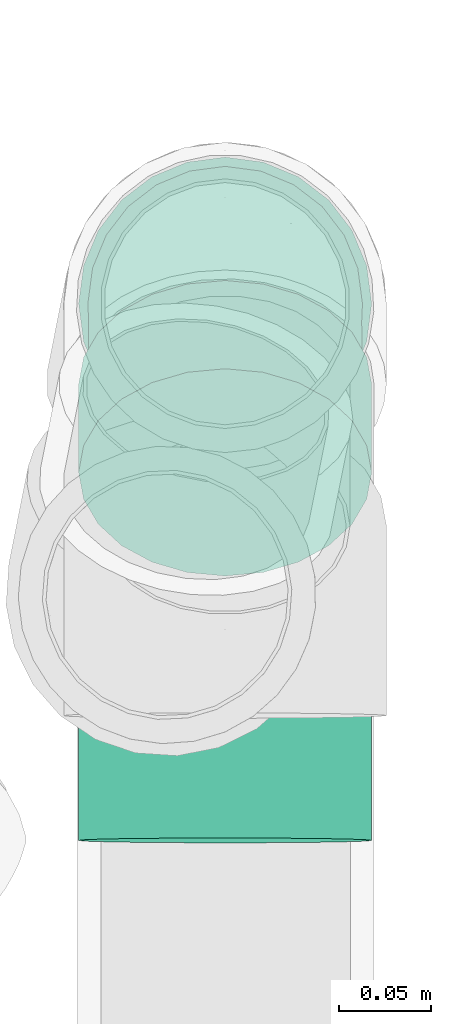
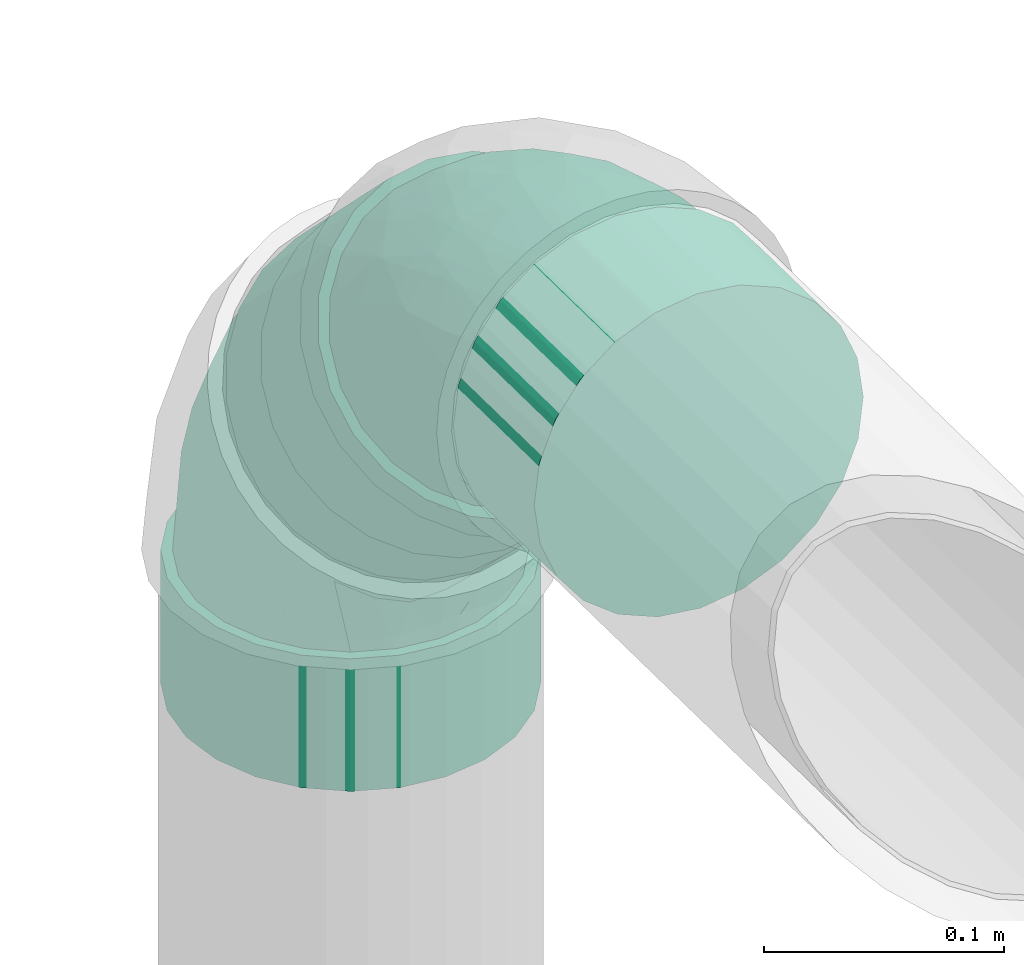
# One storey, part 135 of 156: 2 flow fittings.
"""IFC2X3 building model written with IfcOpenShell, lengths in millimetres."""

from ifc_helpers import new_model, entity, si_unit, converted_unit, derived_unit, direction, frame, origin_with_axes, place, context, subcontext, project, spatial, open_shell, surface_model, source, transform, mapped, type_object, element, save


model = new_model("IFC2X3")

# Units and contexts
model_context = context("Model", 3, precision=0.01, world=frame((0.0, 4.29681676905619e-09, 0.0)), true_north=direction((4.01073788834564e-13, 1.0)))
plan_context = context("Plan", 3, precision=0.01, world=frame((0.0, 4.29681676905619e-09, 0.0)), true_north=direction((4.01073788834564e-13, 1.0)))
body_context = subcontext(model_context, "Body", "Model", "MODEL_VIEW")
ifc_project = project(units=[converted_unit("PLANEANGLEUNIT", "DEGREE", entity("IfcPositiveLengthMeasure", 0.0174532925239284), si_unit("PLANEANGLEUNIT", "RADIAN"), dimensions=[0, 0, 0, 0, 0, 0, 0]), si_unit("AREAUNIT", "SQUARE_METRE"), si_unit("LENGTHUNIT", "METRE", prefix="MILLI"), si_unit("MASSUNIT", "GRAM", prefix="KILO"), si_unit("POWERUNIT", "WATT"), si_unit("PRESSUREUNIT", "PASCAL", prefix="KILO"), si_unit("FORCEUNIT", "NEWTON", prefix="KILO"), si_unit("ELECTRICVOLTAGEUNIT", "VOLT"), si_unit("ELECTRICCURRENTUNIT", "AMPERE"), si_unit("THERMODYNAMICTEMPERATUREUNIT", "DEGREE_CELSIUS"), si_unit("TIMEUNIT", "SECOND"), si_unit("VOLUMEUNIT", "CUBIC_METRE"), derived_unit("LINEARVELOCITYUNIT", [(si_unit("LENGTHUNIT", "METRE"), 1), (si_unit("TIMEUNIT", "SECOND"), -1)]), derived_unit("VOLUMETRICFLOWRATEUNIT", [(si_unit("VOLUMEUNIT", "CUBIC_METRE"), 1), (si_unit("TIMEUNIT", "SECOND"), -1)]), derived_unit("THERMALTRANSMITTANCEUNIT", [(si_unit("POWERUNIT", "WATT"), 1), (si_unit("THERMODYNAMICTEMPERATUREUNIT", "KELVIN"), -1), (si_unit("AREAUNIT", "SQUARE_METRE"), -1)]), derived_unit("SOUNDPRESSUREUNIT", [(si_unit("PRESSUREUNIT", "PASCAL"), 1)])], contexts=[model_context, plan_context])

# Site, building, storey
site_placement = place(None, frame((0.0, -4.29681676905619e-09, 0.0), z_axis=(0.0, 0.0, 1.0), x_axis=(1.0, 0.0, 0.0)))
site = spatial("IfcSite", under=ifc_project, at=site_placement, CompositionType="ELEMENT")
building_placement = place(site_placement, frame((0.0, 4.29681676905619e-09, 0.0), z_axis=(0.0, 0.0, 1.0), x_axis=(1.0, 0.0, 0.0)))
building = spatial("IfcBuilding", under=site, at=building_placement, Name="mc-building", CompositionType="ELEMENT")
storey_placement = place(building_placement, frame((0.0, 0.0, 205200.0), z_axis=(0.0, 0.0, 1.0), x_axis=(1.0, 0.0, 0.0)))
storey = spatial("IfcBuildingStorey", under=building, at=storey_placement, Name="Nivå D + 1,2 m", CompositionType="ELEMENT", Elevation=205200.0)

# Flow fittings
pipe_fitting_type = type_object("IfcPipeFittingType", Name="magi_sewer_bend_001", PredefinedType="BEND")
shared_shape_1 = source(origin_with_axes(), body_context, "Body", "SurfaceModel", [
    surface_model("IfcShellBasedSurfaceModel", [(-129.01071, -39.625, -68.63251), (-129.01071, 76.54962, -20.51141), (-129.01071, -20.51141, -76.54962), (-129.01071, -56.03821, -56.03821), (-129.01071, -68.63251, -39.625), (-129.01071, -76.54962, -20.51141), (-129.01071, -79.25, 0.0), (-129.01071, -76.54962, 20.51141), (-129.01071, 20.51141, -76.54962), (-129.01071, 68.63251, -39.625), (-129.01071, 39.625, -68.63251), (-129.01071, 0.0, -79.25), (-129.01071, 56.03821, -56.03821), (-129.01071, -68.63251, 39.625), (-129.01071, -56.03821, 56.03821), (-129.01071, -39.625, 68.63251), (-129.01071, -20.51141, 76.54962), (-129.01071, 0.0, 79.25), (-129.01071, 76.54962, 20.51141), (-129.01071, 20.51141, 76.54962), (-129.01071, 56.03821, 56.03821), (-129.01071, 68.63251, 39.625), (-129.01071, 79.25, 0.0), (-129.01071, 39.625, 68.63251), (-61.51071, 0.0, 79.25), (-61.51071, -20.51141, 76.54962), (-61.51071, -39.625, 68.63251), (-61.51071, 20.51141, 76.54962), (-61.51071, -56.03821, 56.03821), (-61.51071, -68.63251, 39.625), (-61.51071, -76.54962, 20.51141), (-61.51071, 56.03821, 56.03821), (-61.51071, 39.625, 68.63251), (-61.51071, 76.54962, 20.51141), (-61.51071, 68.63251, 39.625), (-61.51071, 76.54962, -20.51141), (-61.51071, 79.25, 0.0), (-61.51071, -79.25, 0.0), (-61.51071, -76.54962, -20.51141), (-61.51071, -68.63251, -39.625), (-61.51071, -56.03821, -56.03821), (-61.51071, -39.625, -68.63251), (-61.51071, -20.51141, -76.54962), (-61.51071, 0.0, -79.25), (-61.51071, 68.63251, -39.625), (-61.51071, 39.625, -68.63251), (-61.51071, 56.03821, -56.03821), (-61.51071, 20.51141, -76.54962), (42.69383, 139.75487, 39.625), (37.09559, 145.35311, -20.51141), (37.09559, 145.35311, 20.51141), (51.59935, 130.84935, 56.03821), (76.72059, 105.7281, -76.54962), (76.72059, 105.7281, 76.54962), (91.22435, 91.22435, 79.25), (63.20524, 119.24346, 68.63251), (105.7281, 76.72059, -76.54962), (51.59935, 130.84935, -56.03821), (42.69383, 139.75487, -39.625), (35.18614, 147.26256, 0.0), (63.20524, 119.24346, -68.63251), (105.7281, 76.72059, 76.54962), (139.75487, 42.69383, 39.625), (119.24346, 63.20524, 68.63251), (130.84935, 51.59935, 56.03821), (145.35311, 37.09559, 20.51141), (147.26256, 35.18614, 0.0), (145.35311, 37.09559, -20.51141), (130.84935, 51.59935, -56.03821), (119.24346, 63.20524, -68.63251), (91.22435, 91.22435, -79.25), (139.75487, 42.69383, -39.625), (99.53285, -12.54357, 0.0), (97.6234, -10.63411, 20.51141), (92.02516, -5.03587, 39.625), (97.6234, -10.63411, -20.51141), (71.51375, 15.47554, 68.63251), (57.9984, 28.99089, 76.54962), (83.11964, 3.86964, 56.03821), (57.9984, 28.99089, -76.54962), (83.11964, 3.86964, -56.03821), (92.02516, -5.03587, -39.625), (71.51375, 15.47554, -68.63251), (28.99089, 57.9984, -76.54962), (43.49464, 43.49464, -79.25), (3.86964, 83.11964, 56.03821), (43.49464, 43.49464, 79.25), (28.99089, 57.9984, 76.54962), (15.47554, 71.51375, 68.63251), (-5.03587, 92.02516, 39.625), (-10.63411, 97.6234, 20.51141), (3.86964, 83.11964, -56.03821), (15.47554, 71.51375, -68.63251), (-10.63411, 97.6234, -20.51141), (-5.03587, 92.02516, -39.625), (-12.54357, 99.53285, 0.0), (-61.51071, 0.0, -74.25), (-61.51071, -52.50268, -52.50268), (-61.51071, 19.21731, -71.71999), (-61.51071, 37.125, -64.30238), (-61.51071, 52.50268, -52.50268), (-61.51071, 71.71999, -19.21731), (-61.51071, 64.30238, -37.125), (-61.51071, -64.30238, -37.125), (-61.51071, -37.125, -64.30238), (-61.51071, -19.21731, -71.71999), (-61.51071, -71.71999, -19.21731), (-61.51071, -74.25, 0.0), (-61.51071, -71.71999, 19.21731), (-61.51071, 71.71999, 19.21731), (-61.51071, 19.21731, 71.71999), (-61.51071, 64.30238, 37.125), (-61.51071, 52.50268, 52.50268), (-61.51071, 37.125, 64.30238), (-61.51071, 0.0, 74.25), (-61.51071, -64.30238, 37.125), (-61.51071, -52.50268, 52.50268), (-61.51071, -37.125, 64.30238), (-61.51071, -19.21731, 71.71999), (-61.51071, 74.25, 0.0), (29.90595, 57.08333, -71.71999), (94.20834, -7.21905, 19.21731), (43.49464, 43.49464, -74.25), (6.36964, 80.61964, -52.50268), (17.2433, 69.74598, -64.30238), (-1.97401, 88.96329, -37.125), (-7.21905, 94.20834, -19.21731), (-7.21905, 94.20834, 19.21731), (80.61964, 6.36964, -52.50268), (57.08333, 29.90595, -71.71999), (69.74598, 17.2433, -64.30238), (88.96329, -1.97401, -37.125), (95.99732, -9.00804, 0.0), (94.20834, -7.21905, -19.21731), (6.36964, 80.61964, 52.50268), (-1.97401, 88.96329, 37.125), (17.2433, 69.74598, 64.30238), (29.90595, 57.08333, 71.71999), (80.61964, 6.36964, 52.50268), (88.96329, -1.97401, 37.125), (69.74598, 17.2433, 64.30238), (43.49464, 43.49464, 74.25), (57.08333, 29.90595, 71.71999), (-9.00804, 95.99732, 0.0), (18.97963, -45.82088, 41.10888), (-16.96986, -42.20345, 57.20469), (-24.99893, -57.0202, 43.40984), (-31.17452, -70.7805, 14.25394), (-18.05435, -69.96992, 0.0), (57.99628, -22.64245, 43.40984), (-29.18476, -27.31418, 67.80352), (7.72069, -18.63939, 66.80292), (18.91171, 33.35298, 73.81249), (-22.76922, -7.42338, 73.2468), (-6.97085, 16.82913, 74.00876), (-36.95672, 10.21152, 73.81249), (-12.81929, 65.40634, 52.81246), (-33.53452, 61.95806, 46.91729), (-21.029, 50.76849, 60.73213), (39.95079, 1.3227, 67.80352), (-13.78152, -64.40031, 25.63372), (-1.52683, -65.03279, 11.85232), (-30.56305, 73.78573, 30.64743), (65.06943, -33.26965, 13.56101), (55.2829, -35.79289, 25.63372), (41.80314, -47.68445, 12.29321), (-29.15336, 79.81638, 15.67714), (-29.20355, 30.61451, 69.44834), (22.17425, -53.53337, 24.24711), (41.84185, -17.84284, 57.20469), (21.34939, 10.85114, 73.2468), (1.80107, 44.20588, 69.36259), (12.73821, -30.75276, 58.65858), (-33.09647, 79.90195, 0.0), (23.73202, -57.29416, 0.0), (62.24255, -36.70986, 0.0), (-22.76922, -7.42338, -73.2468), (72.09309, -28.00566, -14.25394), (55.2829, -35.79289, -25.63372), (-21.029, 50.76849, -60.73213), (-0.9977, 42.29776, -69.44834), (-32.53183, 29.98473, -69.3626), (-36.95672, 10.21152, -73.81249), (-20.09848, 67.52345, -46.91729), (-37.18466, 55.31387, -52.81246), (-30.56305, 73.78573, -30.64742), (-29.18476, -27.31418, -67.80352), (-16.96986, -42.20345, -57.20469), (-35.82416, 77.05324, -15.67714), (18.97963, -45.82088, -41.10888), (22.17425, -53.53337, -24.24711), (-24.99893, -57.0202, -43.40984), (21.34939, 10.85115, -73.2468), (-6.97085, 16.82912, -74.00876), (-22.48584, -69.53623, -13.56101), (4.15871, -63.27729, -12.29321), (-13.78151, -64.40031, -25.63372), (18.91171, 33.35298, -73.81249), (57.99628, -22.64245, -43.40984), (7.72069, -18.63939, -66.80292), (39.95079, 1.3227, -67.80352), (41.84185, -17.84284, -57.20469), (47.06476, -44.90549, -11.85232), (12.73821, -30.75276, -58.65858)], [open_shell([[[0, 1, 2]], [[3, 1, 0]], [[4, 5, 6]], [[3, 4, 7]], [[3, 7, 1]], [[8, 9, 10]], [[1, 8, 11]], [[10, 9, 12]], [[9, 8, 1]], [[11, 2, 1]], [[7, 4, 6]], [[7, 13, 14]], [[7, 14, 15]], [[15, 16, 17]], [[15, 18, 1]], [[19, 15, 17]], [[18, 20, 21]], [[22, 1, 18]], [[20, 19, 23]], [[19, 20, 18]], [[15, 19, 18]], [[1, 7, 15]], [[24, 25, 26]], [[27, 24, 26]], [[28, 29, 30]], [[28, 30, 26]], [[27, 26, 30]], [[27, 31, 32]], [[31, 27, 33]], [[31, 33, 34]], [[27, 30, 33]], [[33, 35, 36]], [[33, 30, 35]], [[37, 38, 39]], [[37, 39, 40]], [[41, 42, 37]], [[41, 37, 40]], [[37, 42, 43]], [[44, 45, 46]], [[47, 44, 35]], [[44, 47, 45]], [[47, 35, 43]], [[35, 37, 43]], [[37, 35, 30]], [[1, 36, 35]], [[10, 45, 47]], [[45, 12, 46]], [[8, 47, 43]], [[35, 9, 1]], [[1, 22, 36]], [[44, 12, 9]], [[44, 46, 12]], [[12, 45, 10]], [[47, 8, 10]], [[44, 9, 35]], [[43, 11, 8]], [[2, 42, 41]], [[40, 0, 41]], [[4, 39, 38]], [[40, 39, 3]], [[5, 38, 37]], [[42, 2, 11]], [[41, 0, 2]], [[40, 3, 0]], [[39, 4, 3]], [[5, 4, 38]], [[37, 6, 5]], [[42, 11, 43]], [[30, 7, 37]], [[29, 13, 30]], [[29, 28, 14]], [[28, 26, 15]], [[30, 13, 7]], [[7, 6, 37]], [[25, 16, 15]], [[16, 25, 24]], [[14, 28, 15]], [[14, 13, 29]], [[26, 25, 15]], [[24, 17, 16]], [[19, 27, 32]], [[31, 23, 32]], [[21, 34, 33]], [[31, 34, 20]], [[18, 33, 36]], [[27, 19, 17]], [[32, 23, 19]], [[31, 20, 23]], [[34, 21, 20]], [[18, 21, 33]], [[36, 22, 18]], [[27, 17, 24]], [[48, 49, 50]], [[51, 52, 48]], [[53, 54, 51]], [[53, 51, 55]], [[51, 56, 52]], [[49, 57, 58]], [[49, 59, 50]], [[57, 52, 60]], [[49, 48, 57]], [[48, 52, 57]], [[51, 54, 61]], [[62, 61, 63]], [[62, 63, 64]], [[62, 65, 66]], [[61, 62, 56]], [[67, 62, 66]], [[56, 68, 69]], [[70, 52, 56]], [[68, 67, 71]], [[67, 68, 56]], [[62, 67, 56]], [[56, 51, 61]], [[72, 73, 74]], [[75, 72, 74]], [[76, 77, 74]], [[76, 74, 78]], [[79, 74, 77]], [[75, 80, 81]], [[80, 75, 79]], [[80, 79, 82]], [[75, 74, 79]], [[79, 83, 84]], [[79, 77, 85]], [[86, 87, 88]], [[85, 77, 88]], [[85, 89, 90]], [[90, 79, 85]], [[90, 83, 79]], [[83, 91, 92]], [[91, 83, 93]], [[91, 93, 94]], [[83, 90, 93]], [[90, 95, 93]], [[77, 86, 88]], [[52, 84, 83]], [[58, 94, 93]], [[94, 57, 91]], [[49, 93, 95]], [[83, 60, 52]], [[52, 70, 84]], [[92, 57, 60]], [[92, 91, 57]], [[57, 94, 58]], [[93, 49, 58]], [[92, 60, 83]], [[95, 59, 49]], [[50, 90, 89]], [[85, 48, 89]], [[55, 88, 87]], [[85, 88, 51]], [[53, 87, 86]], [[90, 50, 59]], [[89, 48, 50]], [[85, 51, 48]], [[88, 55, 51]], [[53, 55, 87]], [[86, 54, 53]], [[90, 59, 95]], [[77, 61, 86]], [[76, 63, 77]], [[76, 78, 64]], [[78, 74, 62]], [[77, 63, 61]], [[61, 54, 86]], [[73, 65, 62]], [[65, 73, 72]], [[64, 78, 62]], [[64, 63, 76]], [[74, 73, 62]], [[72, 66, 65]], [[67, 75, 81]], [[80, 71, 81]], [[69, 82, 79]], [[80, 82, 68]], [[56, 79, 84]], [[75, 67, 66]], [[81, 71, 67]], [[80, 68, 71]], [[82, 69, 68]], [[56, 69, 79]], [[84, 70, 56]], [[75, 66, 72]], [[96, 97, 98]], [[99, 98, 100]], [[101, 102, 100]], [[100, 98, 97]], [[101, 100, 103]], [[104, 97, 105]], [[97, 96, 105]], [[97, 103, 100]], [[101, 103, 106]], [[107, 108, 106]], [[109, 101, 106]], [[110, 109, 106]], [[111, 109, 112]], [[109, 110, 113]], [[112, 109, 113]], [[106, 114, 110]], [[115, 116, 108]], [[117, 108, 116]], [[118, 114, 117]], [[106, 108, 117]], [[106, 117, 114]], [[119, 101, 109]], [[120, 121, 122]], [[123, 120, 124]], [[123, 125, 126]], [[127, 120, 123]], [[128, 122, 121]], [[129, 128, 130]], [[129, 122, 128]], [[131, 132, 133]], [[121, 131, 128]], [[121, 132, 131]], [[123, 126, 127]], [[121, 120, 127]], [[134, 127, 135]], [[134, 136, 137]], [[134, 137, 127]], [[121, 127, 137]], [[121, 138, 139]], [[138, 121, 140]], [[140, 141, 142]], [[141, 140, 121]], [[121, 137, 141]], [[127, 126, 143]], [[144, 145, 146]], [[147, 107, 148]], [[117, 116, 145]], [[139, 138, 149]], [[150, 145, 151]], [[146, 145, 116]], [[141, 137, 152]], [[118, 117, 150]], [[153, 154, 155]], [[114, 118, 153]], [[156, 157, 158]], [[140, 142, 159]], [[134, 156, 136]], [[112, 113, 158]], [[160, 147, 161]], [[111, 157, 162]], [[110, 114, 155]], [[108, 147, 160]], [[163, 164, 165]], [[162, 166, 109]], [[108, 160, 115]], [[119, 109, 166]], [[109, 111, 162]], [[116, 115, 146]], [[158, 113, 167]], [[144, 160, 168]], [[161, 168, 160]], [[113, 110, 167]], [[138, 140, 169]], [[164, 139, 149]], [[121, 139, 164]], [[141, 152, 170]], [[144, 146, 160]], [[138, 169, 149]], [[154, 152, 171]], [[169, 140, 159]], [[115, 160, 146]], [[132, 121, 163]], [[144, 149, 169]], [[155, 167, 110]], [[150, 153, 118]], [[135, 157, 156]], [[145, 172, 151]], [[162, 127, 166]], [[149, 144, 164]], [[173, 166, 143]], [[111, 112, 157]], [[158, 167, 171]], [[153, 170, 154]], [[136, 171, 137]], [[159, 170, 151]], [[135, 162, 157]], [[142, 141, 170]], [[170, 153, 151]], [[135, 127, 162]], [[164, 168, 165]], [[112, 158, 157]], [[172, 144, 169]], [[158, 171, 136]], [[154, 171, 167]], [[145, 150, 117]], [[153, 150, 151]], [[170, 159, 142]], [[169, 159, 151]], [[153, 155, 114]], [[167, 155, 154]], [[171, 152, 137]], [[170, 152, 154]], [[107, 147, 108]], [[161, 147, 148]], [[148, 174, 161]], [[165, 168, 161]], [[165, 161, 174]], [[144, 168, 164]], [[174, 175, 165]], [[163, 165, 175]], [[132, 163, 175]], [[121, 164, 163]], [[144, 172, 145]], [[169, 151, 172]], [[143, 166, 127]], [[166, 173, 119]], [[136, 156, 158]], [[135, 156, 134]], [[176, 105, 96]], [[133, 177, 178]], [[179, 180, 181]], [[98, 182, 96]], [[183, 184, 102]], [[182, 176, 96]], [[185, 183, 102]], [[186, 187, 104]], [[101, 188, 185]], [[123, 124, 179]], [[189, 178, 190]], [[99, 181, 98]], [[97, 187, 191]], [[192, 176, 193]], [[107, 106, 194]], [[184, 183, 179]], [[190, 195, 196]], [[197, 180, 120]], [[97, 104, 187]], [[128, 131, 198]], [[186, 176, 199]], [[196, 106, 103]], [[186, 104, 105]], [[97, 191, 103]], [[191, 189, 196]], [[200, 192, 129]], [[119, 173, 188]], [[123, 179, 183]], [[143, 126, 188]], [[125, 123, 183]], [[124, 120, 180]], [[185, 102, 101]], [[125, 183, 185]], [[133, 178, 131]], [[180, 179, 124]], [[130, 128, 201]], [[122, 129, 192]], [[184, 99, 100]], [[178, 177, 202]], [[197, 120, 122]], [[200, 129, 130]], [[194, 196, 195]], [[128, 198, 201]], [[199, 200, 201]], [[201, 203, 199]], [[193, 197, 192]], [[198, 189, 201]], [[126, 125, 185]], [[175, 177, 132]], [[131, 178, 198]], [[189, 198, 178]], [[190, 178, 202]], [[176, 192, 199]], [[203, 189, 187]], [[189, 191, 187]], [[126, 185, 188]], [[196, 103, 191]], [[193, 182, 181]], [[179, 181, 99]], [[193, 181, 180]], [[176, 186, 105]], [[187, 186, 199]], [[201, 200, 130]], [[192, 200, 199]], [[181, 182, 98]], [[176, 182, 193]], [[192, 197, 122]], [[180, 197, 193]], [[132, 177, 133]], [[202, 177, 175]], [[175, 174, 202]], [[195, 190, 202]], [[195, 202, 174]], [[189, 190, 196]], [[174, 148, 195]], [[194, 195, 148]], [[107, 194, 148]], [[106, 196, 194]], [[189, 203, 201]], [[187, 199, 203]], [[119, 188, 101]], [[188, 173, 143]], [[99, 184, 179]], [[102, 184, 100]]])]),
])
flow_fitting_1_placement = place(storey_placement, frame((324308.57539, 464415.93402, 7356.92178999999), z_axis=(1.0, 0.0, 0.0), x_axis=(0.0, 0.0, 1.0)))
element("IfcFlowFitting", 1, at=flow_fitting_1_placement, inside=storey, type_object=pipe_fitting_type, Name="magi_sewer_bend_001", context=body_context, shape_type="MappedRepresentation", body=[
    mapped(shared_shape_1, transform((0.0, 0.0, 0.0), scale=1.0)),
])
shared_shape_2 = source(origin_with_axes(), body_context, "Body", "SurfaceModel", [
    surface_model("IfcShellBasedSurfaceModel", [(-127.56598, -39.625, -68.63251), (-127.56598, 76.54962, -20.51141), (-127.56598, -20.51141, -76.54962), (-127.56598, -56.03821, -56.03821), (-127.56598, -68.63251, -39.625), (-127.56598, -76.54962, -20.51141), (-127.56598, -79.25, 0.0), (-127.56598, -76.54962, 20.51141), (-127.56598, 20.51141, -76.54962), (-127.56598, 68.63251, -39.625), (-127.56598, 39.625, -68.63251), (-127.56598, 0.0, -79.25), (-127.56598, 56.03821, -56.03821), (-127.56598, -68.63251, 39.625), (-127.56598, -56.03821, 56.03821), (-127.56598, -39.625, 68.63251), (-127.56598, -20.51141, 76.54962), (-127.56598, 0.0, 79.25), (-127.56598, 76.54962, 20.51141), (-127.56598, 20.51141, 76.54962), (-127.56598, 56.03821, 56.03821), (-127.56598, 68.63251, 39.625), (-127.56598, 79.25, 0.0), (-127.56598, 39.625, 68.63251), (-60.06598, 0.0, 79.25), (-60.06598, -20.51141, 76.54962), (-60.06598, -39.625, 68.63251), (-60.06598, 20.51141, 76.54962), (-60.06598, -56.03821, 56.03821), (-60.06598, -68.63251, 39.625), (-60.06598, -76.54962, 20.51141), (-60.06598, 56.03821, 56.03821), (-60.06598, 39.625, 68.63251), (-60.06598, 76.54962, 20.51141), (-60.06598, 68.63251, 39.625), (-60.06598, 76.54962, -20.51141), (-60.06598, 79.25, 0.0), (-60.06598, -79.25, 0.0), (-60.06598, -76.54962, -20.51141), (-60.06598, -68.63251, -39.625), (-60.06598, -56.03821, -56.03821), (-60.06598, -39.625, -68.63251), (-60.06598, -20.51141, -76.54962), (-60.06598, 0.0, -79.25), (-60.06598, 68.63251, -39.625), (-60.06598, 39.625, -68.63251), (-60.06598, 56.03821, -56.03821), (-60.06598, 20.51141, -76.54962), (43.97837, 138.01958, 39.625), (36.59682, 145.65135, 0.0), (38.4742, 143.71033, 20.51141), (52.73424, 128.96689, 56.03821), (77.43336, 103.43051, -76.54962), (64.14512, 117.16921, 68.63251), (77.43336, 103.43051, 76.54962), (91.69341, 88.68707, 79.25), (105.95346, 73.94363, -76.54962), (43.97837, 138.01958, -39.625), (38.4742, 143.71033, -20.51141), (52.73424, 128.96689, -56.03821), (64.14512, 117.16921, -68.63251), (119.24171, 60.20494, 68.63251), (105.95346, 73.94363, 76.54962), (139.40846, 39.35457, 39.625), (130.65259, 48.40725, 56.03821), (144.91263, 33.66381, 20.51141), (146.79, 31.7228, 0.0), (144.91263, 33.66381, -20.51141), (130.65259, 48.40725, -56.03821), (119.24171, 60.20494, -68.63251), (91.69341, 88.68707, -79.25), (139.40846, 39.35457, -39.625), (98.27154, -15.20489, 0.0), (96.39417, -13.26388, 20.51141), (90.89, -7.57313, 39.625), (82.13412, 1.47956, 56.03821), (70.72324, 13.27724, 68.63251), (96.39417, -13.26388, -20.51141), (28.9149, 56.50281, -76.54962), (90.89, -7.57313, -39.625), (57.435, 27.01594, -76.54962), (82.13412, 1.47956, -56.03821), (70.72324, 13.27724, -68.63251), (43.17495, 41.75938, -79.25), (57.435, 27.01594, 76.54962), (4.21578, 82.0392, 56.03821), (43.17495, 41.75938, 79.25), (28.9149, 56.50281, 76.54962), (15.62665, 70.24152, 68.63251), (-4.5401, 91.09189, 39.625), (-10.04427, 96.78264, 20.51141), (15.62665, 70.24152, -68.63251), (-4.5401, 91.09189, -39.625), (4.21578, 82.0392, -56.03821), (-10.04427, 96.78264, -20.51141), (-11.92164, 98.72365, 0.0), (-60.06598, 0.0, -74.25), (-60.06598, -52.50268, -52.50268), (-60.06598, 19.21731, -71.71999), (-60.06598, 37.125, -64.30238), (-60.06598, 52.50268, -52.50268), (-60.06598, 71.71999, -19.21731), (-60.06598, 64.30238, -37.125), (-60.06598, -64.30238, -37.125), (-60.06598, -37.125, -64.30238), (-60.06598, -19.21731, -71.71999), (-60.06598, -71.71999, -19.21731), (-60.06598, -74.25, 0.0), (-60.06598, -71.71999, 19.21731), (-60.06598, 71.71999, 19.21731), (-60.06598, 19.21731, 71.71999), (-60.06598, 64.30238, 37.125), (-60.06598, 52.50268, 52.50268), (-60.06598, 37.125, 64.30238), (-60.06598, 0.0, 74.25), (-60.06598, -64.30238, 37.125), (-60.06598, -52.50268, 52.50268), (-60.06598, -37.125, 64.30238), (-60.06598, -19.21731, 71.71999), (-60.06598, 74.25, 0.0), (6.67377, 79.49789, -52.50268), (43.17495, 41.75938, -74.25), (29.81459, 55.57263, -71.71999), (17.36472, 68.44453, -64.30238), (-1.52968, 87.97942, -37.125), (-6.68659, 93.31114, -19.21731), (79.67613, 4.02087, -52.50268), (-6.68659, 93.31114, 19.21731), (56.53531, 27.94613, -71.71999), (68.98518, 15.07422, -64.30238), (68.98518, 15.07422, 64.30238), (87.87958, -4.46067, -37.125), (93.03649, -9.79238, -19.21731), (93.03649, -9.79238, 19.21731), (94.79541, -11.61093, 0.0), (29.81459, 55.57263, 71.71999), (-1.52968, 87.97942, 37.125), (6.67377, 79.49789, 52.50268), (17.36472, 68.44453, 64.30238), (43.17495, 41.75938, 74.25), (79.67613, 4.02087, 52.50268), (87.87958, -4.46067, 37.125), (56.53531, 27.94613, 71.71999), (-8.44552, 95.12969, 0.0), (18.75845, -46.37617, 41.28461), (-16.11437, -42.26735, 57.26329), (-23.67875, -57.01054, 43.45318), (-29.95593, -70.80813, 14.27188), (-17.52019, -70.14907, 0.0), (56.65526, -24.51667, 43.45318), (-28.56693, -27.37886, 67.84096), (7.70823, -19.05692, 66.88302), (2.28694, 43.75054, 69.32287), (13.6383, 34.13469, 73.20011), (-21.74971, -7.44882, 73.2596), (-6.68372, 16.52404, 73.99597), (-36.18232, 10.17321, 73.80395), (-12.21874, 64.77147, 52.93733), (-32.16885, 61.96645, 46.87768), (-20.43969, 50.53267, 60.65755), (39.56815, 0.18074, 67.84096), (-13.04073, -64.51949, 25.73281), (0.44359, -64.89654, 11.77994), (-29.75774, 73.56951, 30.55431), (64.5687, -34.58672, 13.66018), (54.22915, -37.30986, 25.73281), (40.91985, -48.86397, 12.44562), (-28.72032, 79.36063, 15.62719), (-28.0061, 30.60975, 69.42541), (21.89456, -54.12951, 24.53908), (40.9682, -19.17832, 57.26329), (20.81212, 9.76679, 73.2596), (12.50986, -30.92789, 59.02165), (-32.22431, 79.66757, 0.0), (23.45902, -57.9973, 0.0), (61.36277, -38.24212, 0.0), (-21.74971, -7.44882, -73.25959), (70.75968, -30.0702, -14.27188), (54.22915, -37.30985, -25.73281), (-20.4397, 50.53267, -60.65756), (-1.1501, 41.47259, -69.42541), (-32.06031, 29.8576, -69.32287), (-33.53439, 15.05405, -73.20011), (-19.95793, 66.90559, -46.87767), (-36.24802, 55.05199, -52.93733), (-29.75774, 73.56951, -30.5543), (-28.56693, -27.37886, -67.84096), (-16.11437, -42.26735, -57.26329), (-34.52956, 77.01088, -15.62719), (18.75845, -46.37617, -41.28461), (21.89456, -54.12951, -24.53908), (-23.67875, -57.01054, -43.45318), (-6.68372, 16.52404, -73.99597), (20.81212, 9.76679, -73.2596), (-22.36592, -69.75044, -13.66018), (4.5586, -63.57154, -12.44562), (-13.04073, -64.51949, -25.73281), (18.93489, 32.46728, -73.80395), (56.65526, -24.51667, -43.45318), (7.70823, -19.05692, -66.88302), (39.56815, 0.18074, -67.84096), (40.96821, -19.17832, -57.26329), (44.79886, -46.95551, -11.77994), (12.50986, -30.9279, -59.02165)], [open_shell([[[0, 1, 2]], [[3, 1, 0]], [[4, 5, 6]], [[3, 4, 7]], [[3, 7, 1]], [[8, 9, 10]], [[1, 8, 11]], [[10, 9, 12]], [[9, 8, 1]], [[11, 2, 1]], [[7, 4, 6]], [[7, 13, 14]], [[7, 14, 15]], [[15, 16, 17]], [[15, 18, 1]], [[19, 15, 17]], [[18, 20, 21]], [[22, 1, 18]], [[20, 19, 23]], [[19, 20, 18]], [[15, 19, 18]], [[1, 7, 15]], [[24, 25, 26]], [[27, 24, 26]], [[28, 29, 30]], [[28, 30, 26]], [[27, 26, 30]], [[27, 31, 32]], [[31, 27, 33]], [[31, 33, 34]], [[27, 30, 33]], [[33, 35, 36]], [[33, 30, 35]], [[37, 38, 39]], [[37, 39, 40]], [[41, 42, 37]], [[41, 37, 40]], [[37, 42, 43]], [[44, 45, 46]], [[47, 44, 35]], [[44, 47, 45]], [[47, 35, 43]], [[35, 37, 43]], [[37, 35, 30]], [[1, 36, 35]], [[10, 45, 47]], [[45, 12, 46]], [[8, 47, 43]], [[35, 9, 1]], [[1, 22, 36]], [[44, 12, 9]], [[44, 46, 12]], [[12, 45, 10]], [[47, 8, 10]], [[44, 9, 35]], [[43, 11, 8]], [[2, 42, 41]], [[40, 0, 41]], [[4, 39, 38]], [[40, 39, 3]], [[5, 38, 37]], [[42, 2, 11]], [[41, 0, 2]], [[40, 3, 0]], [[39, 4, 3]], [[5, 4, 38]], [[37, 6, 5]], [[42, 11, 43]], [[30, 7, 37]], [[29, 13, 30]], [[29, 28, 14]], [[28, 26, 15]], [[30, 13, 7]], [[7, 6, 37]], [[25, 16, 15]], [[16, 25, 24]], [[14, 28, 15]], [[14, 13, 29]], [[26, 25, 15]], [[24, 17, 16]], [[19, 27, 32]], [[31, 23, 32]], [[21, 34, 33]], [[31, 34, 20]], [[18, 33, 36]], [[27, 19, 17]], [[32, 23, 19]], [[31, 20, 23]], [[34, 21, 20]], [[18, 21, 33]], [[36, 22, 18]], [[27, 17, 24]], [[48, 49, 50]], [[51, 52, 48]], [[53, 54, 55]], [[52, 51, 56]], [[56, 51, 53]], [[48, 57, 58]], [[58, 49, 48]], [[59, 52, 60]], [[52, 59, 57]], [[52, 57, 48]], [[53, 55, 56]], [[61, 56, 62]], [[63, 61, 64]], [[63, 65, 66]], [[67, 61, 63]], [[67, 63, 66]], [[56, 68, 69]], [[70, 52, 56]], [[56, 71, 68]], [[71, 56, 67]], [[61, 67, 56]], [[56, 55, 62]], [[72, 73, 74]], [[72, 74, 75]], [[72, 76, 77]], [[76, 72, 75]], [[77, 76, 78]], [[79, 80, 81]], [[80, 79, 77]], [[81, 80, 82]], [[80, 77, 78]], [[80, 78, 83]], [[76, 84, 85]], [[86, 87, 88]], [[88, 85, 84]], [[85, 89, 90]], [[85, 78, 76]], [[90, 78, 85]], [[91, 92, 93]], [[92, 91, 78]], [[90, 92, 78]], [[90, 94, 92]], [[90, 95, 94]], [[88, 84, 86]], [[52, 83, 78]], [[57, 92, 94]], [[92, 59, 93]], [[58, 94, 95]], [[78, 60, 52]], [[52, 70, 83]], [[91, 59, 60]], [[91, 93, 59]], [[59, 92, 57]], [[94, 58, 57]], [[91, 60, 78]], [[95, 49, 58]], [[50, 90, 89]], [[85, 48, 89]], [[53, 88, 87]], [[85, 88, 51]], [[54, 87, 86]], [[90, 50, 49]], [[89, 48, 50]], [[85, 51, 48]], [[88, 53, 51]], [[54, 53, 87]], [[86, 55, 54]], [[90, 49, 95]], [[84, 62, 86]], [[76, 61, 84]], [[76, 75, 64]], [[75, 74, 63]], [[84, 61, 62]], [[62, 55, 86]], [[73, 65, 63]], [[65, 73, 72]], [[64, 75, 63]], [[64, 61, 76]], [[74, 73, 63]], [[72, 66, 65]], [[67, 77, 79]], [[81, 71, 79]], [[69, 82, 80]], [[81, 82, 68]], [[56, 80, 83]], [[77, 67, 66]], [[79, 71, 67]], [[81, 68, 71]], [[82, 69, 68]], [[56, 69, 80]], [[83, 70, 56]], [[77, 66, 72]], [[96, 97, 98]], [[99, 98, 100]], [[101, 102, 100]], [[100, 98, 97]], [[101, 100, 103]], [[104, 97, 105]], [[97, 96, 105]], [[97, 103, 100]], [[101, 103, 106]], [[107, 108, 106]], [[109, 101, 106]], [[110, 109, 106]], [[111, 109, 112]], [[109, 110, 113]], [[112, 109, 113]], [[106, 114, 110]], [[115, 116, 108]], [[117, 108, 116]], [[118, 114, 117]], [[106, 108, 117]], [[106, 117, 114]], [[119, 101, 109]], [[120, 121, 122]], [[120, 122, 123]], [[120, 124, 125]], [[121, 120, 126]], [[126, 120, 127]], [[128, 126, 129]], [[128, 121, 126]], [[126, 130, 131]], [[130, 132, 131]], [[132, 133, 134]], [[127, 120, 125]], [[126, 127, 130]], [[135, 127, 136]], [[137, 138, 135]], [[137, 135, 136]], [[139, 127, 135]], [[133, 140, 141]], [[140, 133, 130]], [[130, 139, 142]], [[133, 132, 130]], [[127, 139, 130]], [[127, 125, 143]], [[144, 145, 146]], [[147, 107, 148]], [[117, 116, 145]], [[141, 140, 149]], [[150, 145, 151]], [[146, 145, 116]], [[135, 152, 153]], [[118, 117, 150]], [[154, 155, 156]], [[114, 118, 154]], [[157, 158, 159]], [[130, 142, 160]], [[137, 157, 138]], [[112, 113, 159]], [[161, 147, 162]], [[111, 158, 163]], [[110, 114, 156]], [[108, 147, 161]], [[164, 165, 166]], [[163, 167, 109]], [[108, 161, 115]], [[119, 109, 167]], [[109, 111, 163]], [[116, 115, 146]], [[159, 113, 168]], [[144, 161, 169]], [[162, 169, 161]], [[113, 110, 168]], [[140, 130, 170]], [[165, 141, 149]], [[133, 141, 165]], [[139, 153, 171]], [[144, 146, 161]], [[140, 170, 149]], [[155, 153, 152]], [[170, 130, 160]], [[115, 161, 146]], [[134, 133, 164]], [[144, 149, 170]], [[156, 168, 110]], [[150, 154, 118]], [[136, 158, 157]], [[145, 172, 151]], [[163, 127, 167]], [[149, 144, 165]], [[173, 167, 143]], [[111, 112, 158]], [[159, 168, 152]], [[155, 154, 171]], [[138, 152, 135]], [[151, 171, 154]], [[136, 163, 158]], [[139, 171, 142]], [[151, 160, 171]], [[136, 127, 163]], [[165, 169, 166]], [[112, 159, 158]], [[172, 144, 170]], [[159, 152, 138]], [[155, 152, 168]], [[145, 150, 117]], [[154, 150, 151]], [[171, 160, 142]], [[170, 160, 151]], [[171, 153, 155]], [[139, 135, 153]], [[154, 156, 114]], [[168, 156, 155]], [[107, 147, 108]], [[162, 147, 148]], [[148, 174, 162]], [[166, 169, 162]], [[166, 162, 174]], [[144, 169, 165]], [[174, 175, 166]], [[164, 166, 175]], [[134, 164, 175]], [[133, 165, 164]], [[144, 172, 145]], [[170, 151, 172]], [[143, 167, 127]], [[167, 173, 119]], [[138, 157, 159]], [[136, 157, 137]], [[105, 96, 176]], [[132, 177, 178]], [[179, 180, 181]], [[181, 182, 98]], [[183, 184, 102]], [[182, 176, 96]], [[185, 183, 102]], [[186, 187, 104]], [[101, 188, 185]], [[120, 123, 179]], [[189, 178, 190]], [[99, 181, 98]], [[97, 187, 191]], [[192, 193, 176]], [[107, 106, 194]], [[184, 183, 179]], [[190, 195, 196]], [[197, 180, 122]], [[97, 104, 187]], [[126, 131, 198]], [[199, 176, 193]], [[196, 106, 103]], [[186, 104, 105]], [[97, 191, 103]], [[191, 189, 196]], [[200, 193, 128]], [[119, 173, 188]], [[120, 179, 183]], [[143, 125, 188]], [[124, 120, 183]], [[123, 122, 180]], [[185, 102, 101]], [[124, 183, 185]], [[132, 178, 131]], [[180, 179, 123]], [[129, 126, 201]], [[121, 128, 193]], [[184, 99, 100]], [[178, 177, 202]], [[197, 122, 121]], [[200, 128, 129]], [[194, 196, 195]], [[126, 198, 201]], [[199, 200, 201]], [[201, 203, 199]], [[192, 197, 193]], [[198, 189, 201]], [[125, 124, 185]], [[175, 177, 134]], [[131, 178, 198]], [[189, 198, 178]], [[190, 178, 202]], [[199, 186, 176]], [[203, 189, 187]], [[189, 191, 187]], [[125, 185, 188]], [[196, 103, 191]], [[192, 182, 181]], [[179, 181, 99]], [[192, 181, 180]], [[176, 186, 105]], [[187, 186, 199]], [[201, 200, 129]], [[193, 200, 199]], [[176, 182, 192]], [[96, 98, 182]], [[193, 197, 121]], [[180, 197, 192]], [[134, 177, 132]], [[202, 177, 175]], [[175, 174, 202]], [[195, 190, 202]], [[195, 202, 174]], [[189, 190, 196]], [[174, 148, 195]], [[194, 195, 148]], [[107, 194, 148]], [[106, 196, 194]], [[189, 203, 201]], [[187, 199, 203]], [[119, 188, 101]], [[188, 173, 143]], [[99, 184, 179]], [[102, 184, 100]]])]),
])
flow_fitting_2_placement = place(storey_placement, frame((324308.57539, 464253.21703, 7519.63878000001), z_axis=(1.0, 0.0, 0.0), x_axis=(0.0, -0.707106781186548, 0.707106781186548)))
element("IfcFlowFitting", 2, at=flow_fitting_2_placement, inside=storey, type_object=pipe_fitting_type, Name="magi_sewer_bend_001", context=body_context, shape_type="MappedRepresentation", body=[
    mapped(shared_shape_2, transform((0.0, 0.0, 0.0), scale=1.0)),
])

save(model, "model.ifc")
